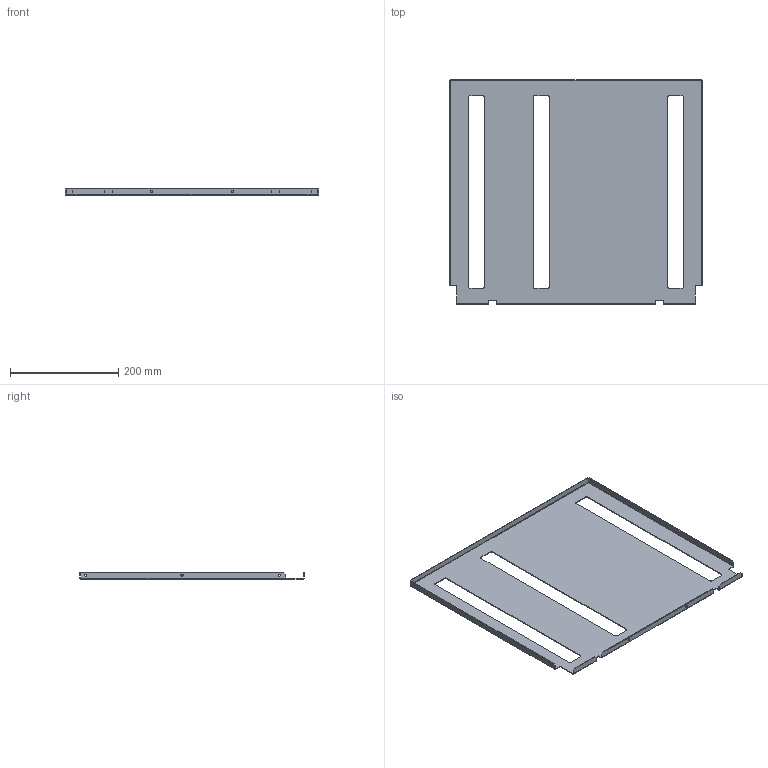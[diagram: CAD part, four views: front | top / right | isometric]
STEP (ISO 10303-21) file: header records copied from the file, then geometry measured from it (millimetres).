
FILE_DESCRIPTION(('CAx-IF Rec.Pracs.---Model Styling and Organization---1.2---2011-12-15','CAx-IF Rec.Pracs.---Geometric and Assembly Validation Properties---4.1---2014-06-16','CAx-IF Rec.Pracs.---PMI Polyline Presentation---2.0---2013-05-24'),'2;1');
FILE_NAME('R5MW9M1BP.stp','2021-05-05T13:00:13+03:00',(''),(''),'STEP Interface 4.4 by CT CoreTechnologie','3D_Evolution4.4 by CT CoreTechnologie','');
FILE_SCHEMA(('AUTOMOTIVE_DESIGN { 1 0 10303 214 1 1 1 1 }'));
Length unit declared in the file: millimetre
Products named in the file (2): R5MW9M1BP; RB.1511.00.00.0_-04
Assembly tree (1 placements, depth 2):
  R5MW9M1BP
    RB.1511.00.00.0_-04
Bounding box: 469 x 416.5 x 12 mm (x, y, z)
Surface area: 362700 mm2 (no closed solid volume)
Topology: 0 solids, 1 shells, 103 faces, 277 edges, 176 vertices
Faces by surface type: plane 59, cylinder 40, bspline 4
Entity records: 3384 total; most frequent: CARTESIAN_POINT 634, DIRECTION 559, ORIENTED_EDGE 554, EDGE_CURVE 277, VECTOR 197, LINE 197, AXIS2_PLACEMENT_3D 181, VERTEX_POINT 176
